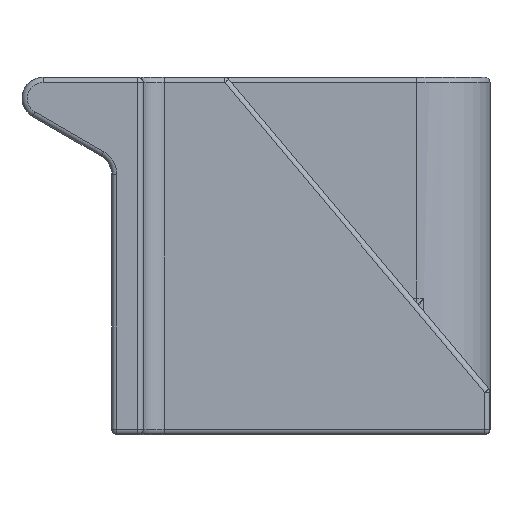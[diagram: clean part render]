
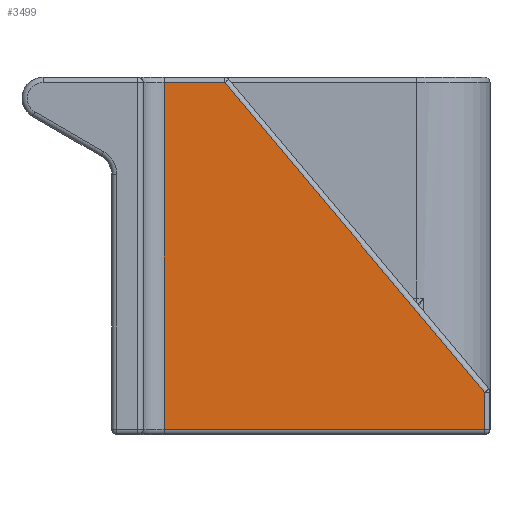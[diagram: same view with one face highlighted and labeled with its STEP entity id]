
A CAD part, left-side view. The second image highlights one B-rep face of the part: STEP entity #3499.
In plain terms, the highlighted planar face has unit normal (-1, 0, 0).
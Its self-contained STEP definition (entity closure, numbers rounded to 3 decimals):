
#605=DIRECTION('',(0.,1.,0.));
#606=VECTOR('',#605,5.767);
#607=CARTESIAN_POINT('',(25.,25.233,33.5));
#608=LINE('',#607,#606);
#609=DIRECTION('',(0.,0.643,0.766));
#610=VECTOR('',#609,38.478);
#611=CARTESIAN_POINT('',(25.,0.5,4.024));
#612=LINE('',#611,#610);
#613=DIRECTION('',(0.,0.,1.));
#614=VECTOR('',#613,3.524);
#615=CARTESIAN_POINT('',(25.,0.5,0.5));
#616=LINE('',#615,#614);
#617=DIRECTION('',(0.,-1.,0.));
#618=VECTOR('',#617,30.5);
#619=CARTESIAN_POINT('',(25.,31.,0.5));
#620=LINE('',#619,#618);
#621=DIRECTION('',(0.,0.,1.));
#622=VECTOR('',#621,33.);
#623=CARTESIAN_POINT('',(25.,31.,0.5));
#624=LINE('',#623,#622);
#2558=CARTESIAN_POINT('',(25.,31.,33.5));
#2559=VERTEX_POINT('',#2558);
#2562=CARTESIAN_POINT('',(25.,25.233,33.5));
#2563=VERTEX_POINT('',#2562);
#2566=CARTESIAN_POINT('',(25.,31.,0.5));
#2567=VERTEX_POINT('',#2566);
#2574=CARTESIAN_POINT('',(25.,0.5,4.024));
#2575=VERTEX_POINT('',#2574);
#2588=CARTESIAN_POINT('',(25.,0.5,0.5));
#2589=VERTEX_POINT('',#2588);
#3483=CARTESIAN_POINT('',(25.,20.054,12.629));
#3484=DIRECTION('',(-1.,0.,0.));
#3485=DIRECTION('',(0.,0.,-1.));
#3486=AXIS2_PLACEMENT_3D('',#3483,#3484,#3485);
#3487=PLANE('',#3486);
#3489=ORIENTED_EDGE('',*,*,#3488,.F.);
#3491=ORIENTED_EDGE('',*,*,#3490,.F.);
#3493=ORIENTED_EDGE('',*,*,#3492,.F.);
#3495=ORIENTED_EDGE('',*,*,#3494,.F.);
#3496=ORIENTED_EDGE('',*,*,#3475,.T.);
#3497=EDGE_LOOP('',(#3489,#3491,#3493,#3495,#3496));
#3498=FACE_OUTER_BOUND('',#3497,.F.);
#3499=ADVANCED_FACE('',(#3498),#3487,.T.);
#3475=EDGE_CURVE('',#2567,#2559,#624,.T.);
#3488=EDGE_CURVE('',#2563,#2559,#608,.T.);
#3490=EDGE_CURVE('',#2575,#2563,#612,.T.);
#3492=EDGE_CURVE('',#2589,#2575,#616,.T.);
#3494=EDGE_CURVE('',#2567,#2589,#620,.T.);
